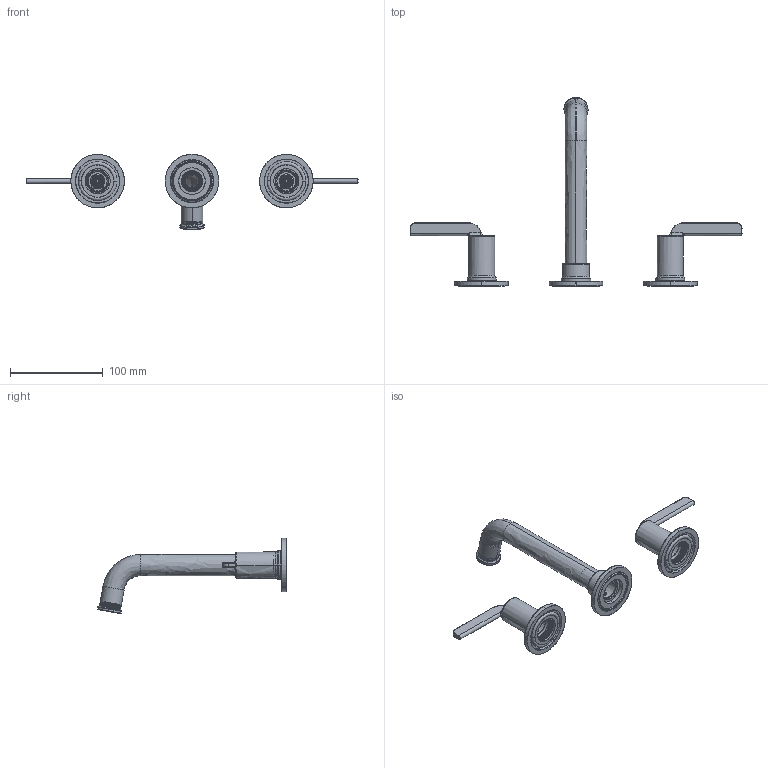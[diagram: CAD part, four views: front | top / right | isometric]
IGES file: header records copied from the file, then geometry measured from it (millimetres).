
Start section: SolidWorks IGES file using analytic representation for surfaces
Global section: file name: W:\mliu8\project\ADHOC-02291\sku_tau03series_igs\sku_tau03series_igs.IGS; native system: SolidWorks 2023; preprocessor: SolidWorks 2023; author: mliu8; date: 240724.144742; units: millimetre
Bounding box: 357 x 203.21 x 80.92 mm (x, y, z)
Surface area: 92805 mm2 (no closed solid volume)
Topology: 0 solids, 0 shells, 1820 faces, 20361 edges, 20342 vertices
Faces by surface type: bspline 1207, revolution 613
